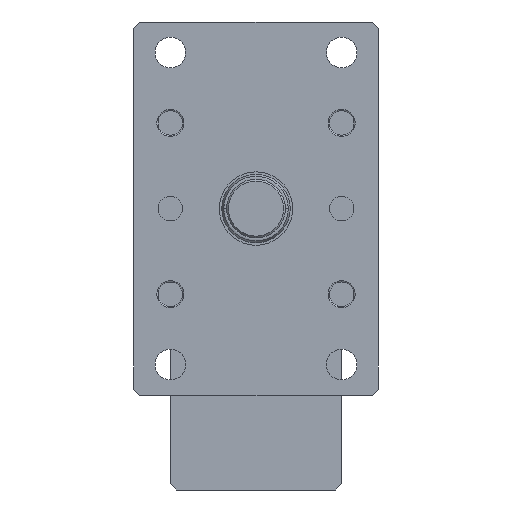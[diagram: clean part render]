
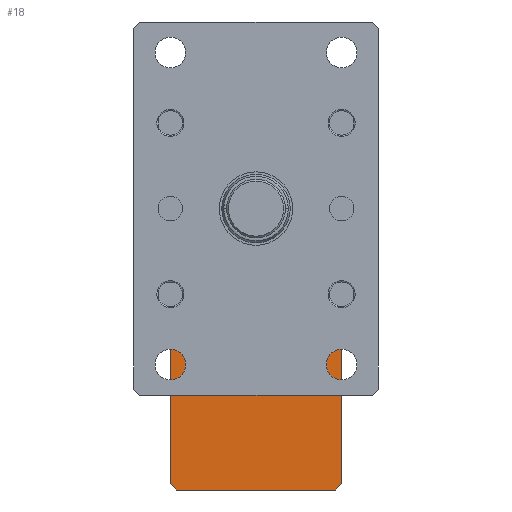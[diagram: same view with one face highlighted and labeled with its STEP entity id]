
A CAD part, left-side view. The second image highlights one B-rep face of the part: STEP entity #18.
In plain terms, the highlighted planar face has unit normal (-1, 0, 0).
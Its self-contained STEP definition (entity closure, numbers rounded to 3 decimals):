
#7 = CARTESIAN_POINT ( 'NONE',  ( 377.5, 70., -90. ) ) ;
#14 = LINE ( 'NONE', #781, #8499 ) ;
#18 = ADVANCED_FACE ( 'NONE', ( #7956 ), #8608, .F. ) ;
#92 = CARTESIAN_POINT ( 'NONE',  ( 377.5, 70., -95. ) ) ;
#341 = VERTEX_POINT ( 'NONE', #6363 ) ;
#398 = DIRECTION ( 'NONE',  ( 0., -0.707, -0.707 ) ) ;
#664 = DIRECTION ( 'NONE',  ( 0., 0.707, 0.707 ) ) ;
#697 = DIRECTION ( 'NONE',  ( 0., -0.707, 0.707 ) ) ;
#781 = CARTESIAN_POINT ( 'NONE',  ( 377.5, 70., -230. ) ) ;
#890 = LINE ( 'NONE', #2599, #4515 ) ;
#1036 = EDGE_CURVE ( 'NONE', #3021, #5889, #8236, .T. ) ;
#1160 = VECTOR ( 'NONE', #3425, 1000. ) ;
#1345 = CARTESIAN_POINT ( 'NONE',  ( 377.5, -70., -95. ) ) ;
#1471 = DIRECTION ( 'NONE',  ( 0., 1., 0. ) ) ;
#1862 = EDGE_LOOP ( 'NONE', ( #6916, #3822, #8048, #7914, #8465, #6223, #3235, #7415 ) ) ;
#2001 = EDGE_CURVE ( 'NONE', #4566, #7897, #14, .T. ) ;
#2156 = DIRECTION ( 'NONE',  ( 0., 0.707, -0.707 ) ) ;
#2278 = EDGE_CURVE ( 'NONE', #2410, #7897, #6684, .T. ) ;
#2410 = VERTEX_POINT ( 'NONE', #2622 ) ;
#2430 = DIRECTION ( 'NONE',  ( 1., 0., 0. ) ) ;
#2589 = VECTOR ( 'NONE', #4364, 1000. ) ;
#2599 = CARTESIAN_POINT ( 'NONE',  ( 377.5, -70., -230. ) ) ;
#2614 = CARTESIAN_POINT ( 'NONE',  ( 377.5, -65., -230. ) ) ;
#2622 = CARTESIAN_POINT ( 'NONE',  ( 377.5, 70., -225. ) ) ;
#2761 = LINE ( 'NONE', #1345, #8025 ) ;
#2769 = CARTESIAN_POINT ( 'NONE',  ( 377.5, -65., -230. ) ) ;
#3021 = VERTEX_POINT ( 'NONE', #5170 ) ;
#3057 = AXIS2_PLACEMENT_3D ( 'NONE', #7228, #2430, #3811 ) ;
#3235 = ORIENTED_EDGE ( 'NONE', *, *, #2001, .F. ) ;
#3425 = DIRECTION ( 'NONE',  ( 0., 1., 0. ) ) ;
#3811 = DIRECTION ( 'NONE',  ( 0., 1., 0. ) ) ;
#3822 = ORIENTED_EDGE ( 'NONE', *, *, #3834, .T. ) ;
#3834 = EDGE_CURVE ( 'NONE', #7994, #3021, #2761, .T. ) ;
#4191 = CARTESIAN_POINT ( 'NONE',  ( 377.5, -70., -95. ) ) ;
#4282 = LINE ( 'NONE', #2769, #7929 ) ;
#4364 = DIRECTION ( 'NONE',  ( 0., 0., 1. ) ) ;
#4390 = CARTESIAN_POINT ( 'NONE',  ( 377.5, 70., -230. ) ) ;
#4515 = VECTOR ( 'NONE', #7397, 1000. ) ;
#4566 = VERTEX_POINT ( 'NONE', #2614 ) ;
#4842 = VECTOR ( 'NONE', #398, 1000. ) ;
#4926 = VECTOR ( 'NONE', #2156, 1000. ) ;
#5137 = CARTESIAN_POINT ( 'NONE',  ( 377.5, 65., -90. ) ) ;
#5170 = CARTESIAN_POINT ( 'NONE',  ( 377.5, -65., -90. ) ) ;
#5695 = CARTESIAN_POINT ( 'NONE',  ( 377.5, -70., -225. ) ) ;
#5889 = VERTEX_POINT ( 'NONE', #5137 ) ;
#6223 = ORIENTED_EDGE ( 'NONE', *, *, #2278, .T. ) ;
#6363 = CARTESIAN_POINT ( 'NONE',  ( 377.5, 70., -95. ) ) ;
#6560 = CARTESIAN_POINT ( 'NONE',  ( 377.5, 65., -230. ) ) ;
#6684 = LINE ( 'NONE', #6560, #4842 ) ;
#6752 = LINE ( 'NONE', #92, #4926 ) ;
#6916 = ORIENTED_EDGE ( 'NONE', *, *, #7827, .T. ) ;
#7034 = VERTEX_POINT ( 'NONE', #5695 ) ;
#7228 = CARTESIAN_POINT ( 'NONE',  ( 377.5, 70., -230. ) ) ;
#7397 = DIRECTION ( 'NONE',  ( 0., 0., 1. ) ) ;
#7415 = ORIENTED_EDGE ( 'NONE', *, *, #8546, .T. ) ;
#7625 = EDGE_CURVE ( 'NONE', #2410, #341, #7860, .T. ) ;
#7827 = EDGE_CURVE ( 'NONE', #7034, #7994, #890, .T. ) ;
#7860 = LINE ( 'NONE', #4390, #2589 ) ;
#7897 = VERTEX_POINT ( 'NONE', #8827 ) ;
#7914 = ORIENTED_EDGE ( 'NONE', *, *, #8014, .T. ) ;
#7929 = VECTOR ( 'NONE', #697, 1000. ) ;
#7956 = FACE_OUTER_BOUND ( 'NONE', #1862, .T. ) ;
#7994 = VERTEX_POINT ( 'NONE', #4191 ) ;
#8014 = EDGE_CURVE ( 'NONE', #5889, #341, #6752, .T. ) ;
#8025 = VECTOR ( 'NONE', #664, 1000. ) ;
#8048 = ORIENTED_EDGE ( 'NONE', *, *, #1036, .T. ) ;
#8236 = LINE ( 'NONE', #7, #1160 ) ;
#8465 = ORIENTED_EDGE ( 'NONE', *, *, #7625, .F. ) ;
#8499 = VECTOR ( 'NONE', #1471, 1000. ) ;
#8546 = EDGE_CURVE ( 'NONE', #4566, #7034, #4282, .T. ) ;
#8608 = PLANE ( 'NONE',  #3057 ) ;
#8827 = CARTESIAN_POINT ( 'NONE',  ( 377.5, 65., -230. ) ) ;
